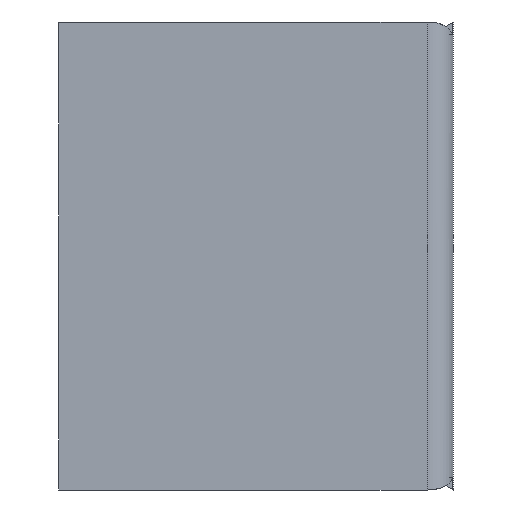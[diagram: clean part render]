
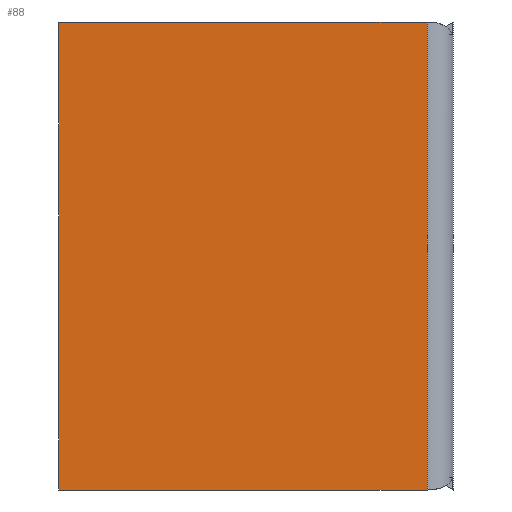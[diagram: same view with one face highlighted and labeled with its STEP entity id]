
A CAD part, left-side view. The second image highlights one B-rep face of the part: STEP entity #88.
In plain terms, the highlighted planar face has unit normal (-1, 0, 0).
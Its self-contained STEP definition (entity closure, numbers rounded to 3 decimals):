
#88 = ADVANCED_FACE( '', ( #122 ), #123, .T. );
#122 = FACE_OUTER_BOUND( '', #164, .T. );
#123 = PLANE( '', #165 );
#164 = EDGE_LOOP( '', ( #285, #286, #287, #288 ) );
#165 = AXIS2_PLACEMENT_3D( '', #289, #290, #291 );
#285 = ORIENTED_EDGE( '', *, *, #361, .T. );
#286 = ORIENTED_EDGE( '', *, *, #378, .F. );
#287 = ORIENTED_EDGE( '', *, *, #379, .F. );
#288 = ORIENTED_EDGE( '', *, *, #380, .T. );
#289 = CARTESIAN_POINT( '', ( -4., 0., -17.784 ) );
#290 = DIRECTION( '', ( -1., 0., 0. ) );
#291 = DIRECTION( '', ( 0., 0., -1. ) );
#361 = EDGE_CURVE( '', #431, #429, #432, .T. );
#378 = EDGE_CURVE( '', #456, #429, #457, .T. );
#379 = EDGE_CURVE( '', #458, #456, #459, .T. );
#380 = EDGE_CURVE( '', #458, #431, #460, .T. );
#429 = VERTEX_POINT( '', #569 );
#431 = VERTEX_POINT( '', #586 );
#432 = LINE( '', #587, #588 );
#456 = VERTEX_POINT( '', #635 );
#457 = LINE( '', #636, #637 );
#458 = VERTEX_POINT( '', #638 );
#459 = LINE( '', #639, #640 );
#460 = LINE( '', #641, #642 );
#569 = CARTESIAN_POINT( '', ( -4., -28., 17.784 ) );
#586 = CARTESIAN_POINT( '', ( -4., -28., -17.784 ) );
#587 = CARTESIAN_POINT( '', ( -4., -28., 0. ) );
#588 = VECTOR( '', #682, 1. );
#635 = CARTESIAN_POINT( '', ( -4., 0., 17.784 ) );
#636 = CARTESIAN_POINT( '', ( -4., 0., 17.784 ) );
#637 = VECTOR( '', #712, 1. );
#638 = CARTESIAN_POINT( '', ( -4., 0., -17.784 ) );
#639 = CARTESIAN_POINT( '', ( -4., 0., -17.784 ) );
#640 = VECTOR( '', #713, 1. );
#641 = CARTESIAN_POINT( '', ( -4., 0., -17.784 ) );
#642 = VECTOR( '', #714, 1. );
#682 = DIRECTION( '', ( 0., 0., 1. ) );
#712 = DIRECTION( '', ( 0., -1., 0. ) );
#713 = DIRECTION( '', ( 0., 0., 1. ) );
#714 = DIRECTION( '', ( 0., -1., 0. ) );
